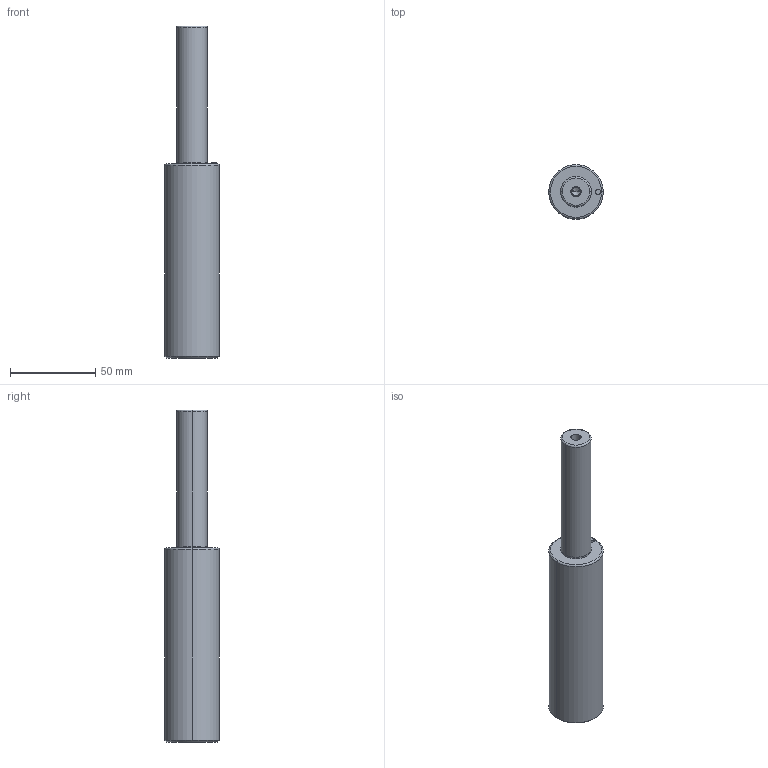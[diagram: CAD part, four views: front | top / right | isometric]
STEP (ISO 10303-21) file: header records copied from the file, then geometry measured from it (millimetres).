
FILE_DESCRIPTION(/* description */ (''),/* implementation_level */ '2;1');
FILE_NAME(/* name */ '3d_gsc32-80_03820_r00.stp',/* time_stamp */ '2011-01-10T14:15:22+09:00',/* author */ ('MISUMI'),/* organization */ (''),/* preprocessor_version */ 'ST-DEVELOPER v11',/* originating_system */ 'UGS - NX 5.0',/* authorisation */ '');
FILE_SCHEMA (('CONFIG_CONTROL_DESIGN'));
Length unit declared in the file: millimetre
Products named in the file (1): 3d_gsc32-80_03820_r00
Bounding box: 32 x 32 x 195 mm (x, y, z)
Volume: 111631.9 mm3; surface area: 17932.3 mm2
Topology: 1 solids, 1 shells, 32 faces, 66 edges, 38 vertices
Faces by surface type: cylinder 16, cone 6, plane 6, torus 4
Entity records: 912 total; most frequent: DIRECTION 168, CARTESIAN_POINT 133, ORIENTED_EDGE 124, AXIS2_PLACEMENT_3D 73, EDGE_CURVE 62, CIRCLE 40, EDGE_LOOP 38, VERTEX_POINT 38
